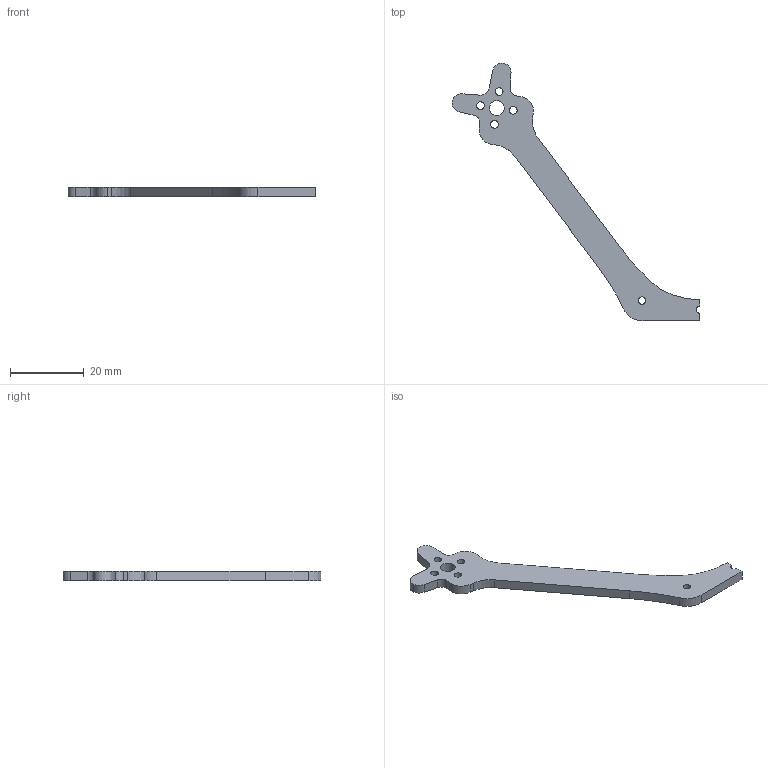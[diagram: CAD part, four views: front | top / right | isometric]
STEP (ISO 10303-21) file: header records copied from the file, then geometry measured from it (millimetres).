
FILE_DESCRIPTION(/* description */ (''),/* implementation_level */ '2;1');
FILE_NAME(/* name */ 'GoFlyPro - 4Z - Arm - 9mm.step',/* time_stamp */ '2026-07-04T12:55:49+02:00',/* author */ (''),/* organization */ (''),/* preprocessor_version */ 'ST-DEVELOPER v20.1',/* originating_system */ 'Autodesk Translation Framework v15.8.0.0',/* authorisation */ '');
FILE_SCHEMA (('AUTOMOTIVE_DESIGN { 1 0 10303 214 3 1 1 }'));
Length unit declared in the file: millimetre
Products named in the file (1): GoFlyPro - 4-Zoll - Arm - 9mm
Bounding box: 67.33 x 69.97 x 2.6 mm (x, y, z)
Volume: 2103.7 mm3; surface area: 2296.7 mm2
Topology: 1 solids, 1 shells, 35 faces, 99 edges, 66 vertices
Faces by surface type: cylinder 17, plane 15, bspline 3
Full cylindrical faces by diameter (mm): 2 x1, 2.1 x4, 4 x1
Entity records: 1220 total; most frequent: CARTESIAN_POINT 216, DIRECTION 205, ORIENTED_EDGE 198, EDGE_CURVE 99, AXIS2_PLACEMENT_3D 73, VERTEX_POINT 66, LINE 59, VECTOR 59
